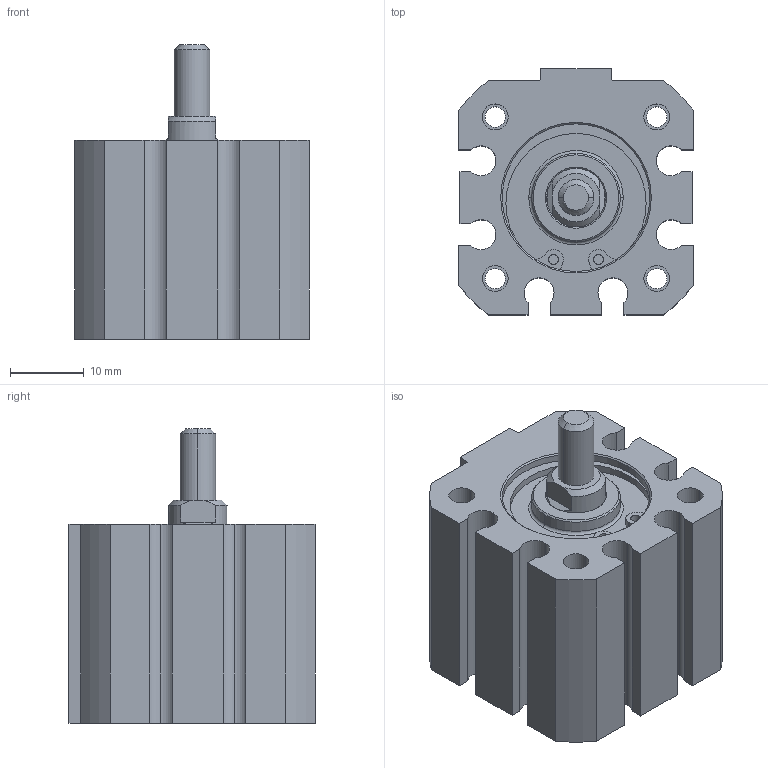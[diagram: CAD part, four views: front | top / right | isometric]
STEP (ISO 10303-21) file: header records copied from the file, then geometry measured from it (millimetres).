
FILE_DESCRIPTION (( 'STEP AP214' ), '1' );
FILE_NAME ('NCQ8A075-050M.step.step', '2014-10-30T15:33:10', ( 'Windows User' ), ( '' ), 'SwSTEP 2.0', 'SolidWorks 2014', '' );
FILE_SCHEMA (( 'AUTOMOTIVE_DESIGN' ));
Length unit declared in the file: millimetre
Products named in the file (4): NCQ8A075-050M.step_NCQ8 Rod_075M; NCQ8A075-050M.step_NCQ8 Tube_075A; NCQ8A075-050M.step; NCQ8A075-050M.step_Snap Ring_075
Assembly tree (3 placements, depth 2):
  NCQ8A075-050M.step
    NCQ8A075-050M.step_NCQ8 Tube_075A
    NCQ8A075-050M.step_NCQ8 Rod_075M
    NCQ8A075-050M.step_Snap Ring_075
Bounding box: 31.75 x 33.34 x 39.88 mm (x, y, z)
Volume: 19858 mm3; surface area: 11513 mm2
Topology: 3 solids, 3 shells, 159 faces, 385 edges, 248 vertices
Faces by surface type: cylinder 79, plane 56, cone 22, torus 2
Entity records: 4863 total; most frequent: DIRECTION 885, CARTESIAN_POINT 826, ORIENTED_EDGE 762, EDGE_CURVE 381, AXIS2_PLACEMENT_3D 347, VERTEX_POINT 248, LINE 191, EDGE_LOOP 191
